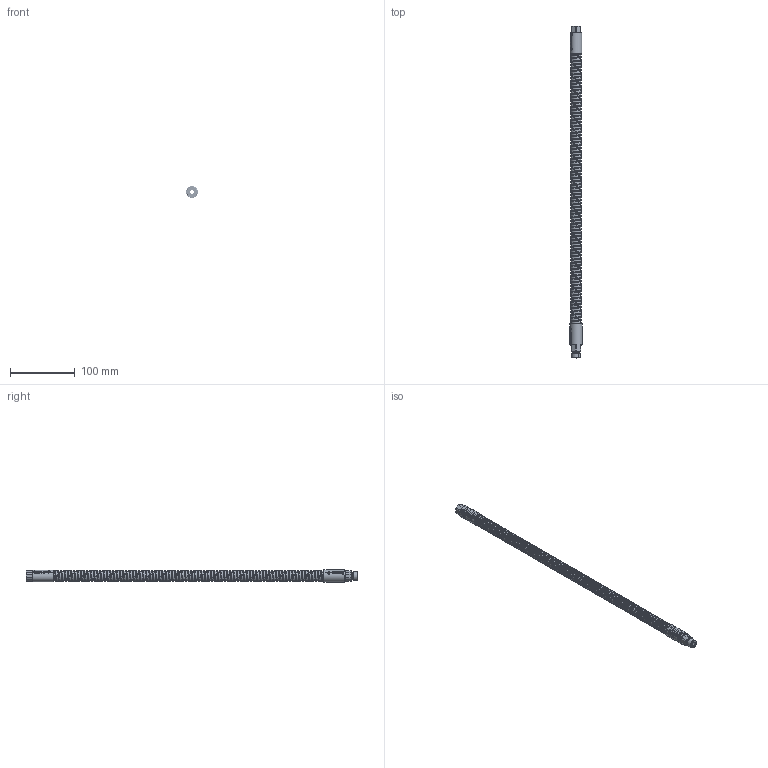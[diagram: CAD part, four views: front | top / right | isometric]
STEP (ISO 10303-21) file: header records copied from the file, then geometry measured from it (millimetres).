
FILE_DESCRIPTION (( 'STEP AP203' ), '1' );
FILE_NAME ('FB14-500.STEP', '2019-09-10T05:00:47', ( '' ), ( '' ), 'SwSTEP 2.0', 'SolidWorks 2016', '' );
FILE_SCHEMA (( 'CONFIG_CONTROL_DESIGN' ));
Length unit declared in the file: millimetre
Products named in the file (1): FB14-500
Bounding box: 18.48 x 511.15 x 18.48 mm (x, y, z)
Surface area: 48442.5 mm2 (no closed solid volume)
Topology: 0 solids, 5 shells, 143 faces, 1481 edges, 1342 vertices
Faces by surface type: cylinder 94, plane 17, cone 14, torus 12, bspline 6
Entity records: 56216 total; most frequent: CARTESIAN_POINT 47446, ORIENTED_EDGE 2848, EDGE_CURVE 1481, VERTEX_POINT 1342, B_SPLINE_CURVE_WITH_KNOTS 1250, DIRECTION 590, AXIS2_PLACEMENT_3D 228, EDGE_LOOP 154
